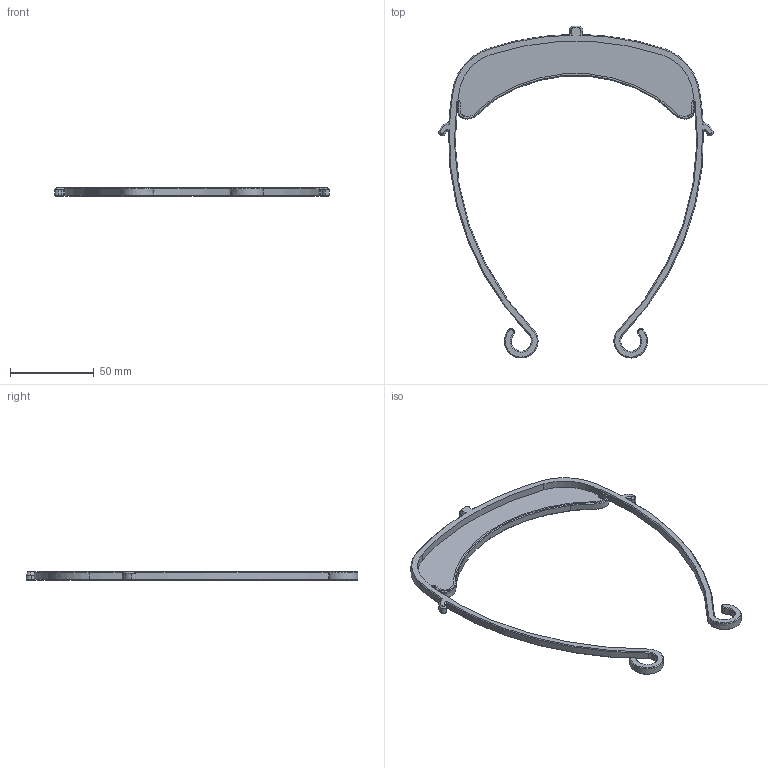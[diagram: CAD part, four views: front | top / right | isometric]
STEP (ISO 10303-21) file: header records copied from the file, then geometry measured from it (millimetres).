
FILE_DESCRIPTION((''),'2;1');
FILE_NAME('NA_LETTER3_EXTENDED_COVER','2020-04-09T14:28:46',('Jason'),(''),'CREO PARAMETRIC BY PTC INC, 2019224','CREO PARAMETRIC BY PTC INC, 2019224','');
FILE_SCHEMA(('CONFIG_CONTROL_DESIGN'));
Length unit declared in the file: millimetre
Products named in the file (1): NA_LETTER3_EXTENDED_COVER
Bounding box: 163.5 x 197.96 x 5 mm (x, y, z)
Volume: 14543.4 mm3; surface area: 18168.8 mm2
Topology: 1 solids, 1 shells, 121 faces, 290 edges, 172 vertices
Faces by surface type: cone 50, cylinder 33, plane 18, bspline 12, extrusion 8
Entity records: 5782 total; most frequent: CARTESIAN_POINT 3035, ORIENTED_EDGE 580, DIRECTION 542, EDGE_CURVE 290, AXIS2_PLACEMENT_3D 209, VERTEX_POINT 172, VECTOR 124, EDGE_LOOP 122
